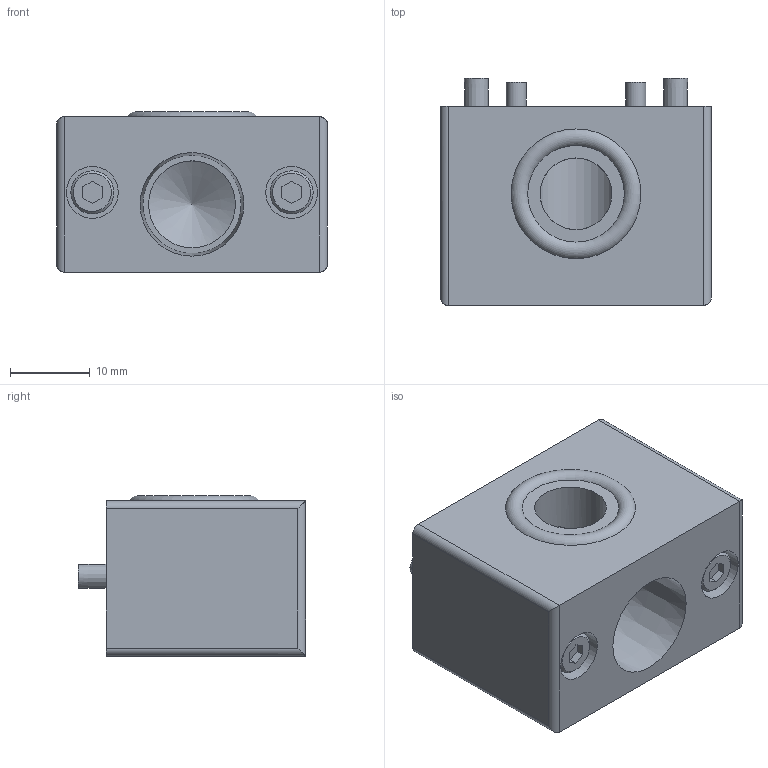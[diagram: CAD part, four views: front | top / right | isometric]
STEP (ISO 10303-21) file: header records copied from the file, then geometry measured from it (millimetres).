
FILE_DESCRIPTION(('STEP AP214'),'1');
FILE_NAME('KHB-7_25HS-EP81_ver1.stp','2026-04-27T01:57:27',(' '),(' '),'Spatial InterOp 3D',' ',' ');
FILE_SCHEMA(('AUTOMOTIVE_DESIGN { 1 0 10303 214 1 1 1 1 }'));
Length unit declared in the file: millimetre
Products named in the file (1): KHB-7~25HS-EP81_ver1
Bounding box: 34 x 28.5 x 20.1 mm (x, y, z)
Volume: 13833.1 mm3; surface area: 6001.2 mm2
Topology: 1 solids, 3 shells, 63 faces, 127 edges, 83 vertices
Faces by surface type: plane 36, cylinder 20, cone 6, torus 1
Full cylindrical faces by diameter (mm): 2.5 x4, 3 x2, 3.5 x2, 5.41 x2, 6.5 x2, 9 x1, 10.9 x1
Entity records: 2076 total; most frequent: CARTESIAN_POINT 322, DIRECTION 268, ORIENTED_EDGE 196, AXIS2_PLACEMENT_3D 107, EDGE_LOOP 100, EDGE_CURVE 98, FACE_OUTER_BOUND 78, VERTEX_POINT 77
